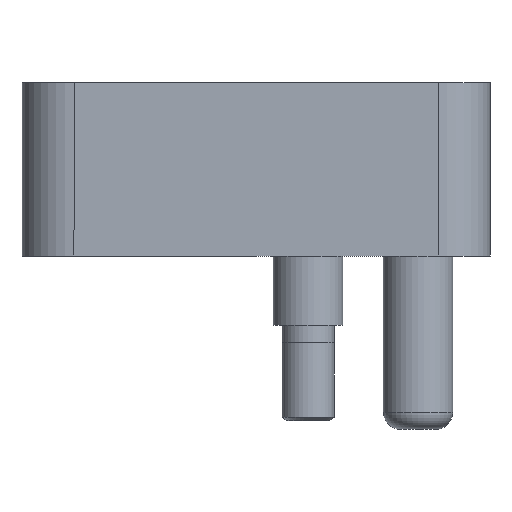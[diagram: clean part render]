
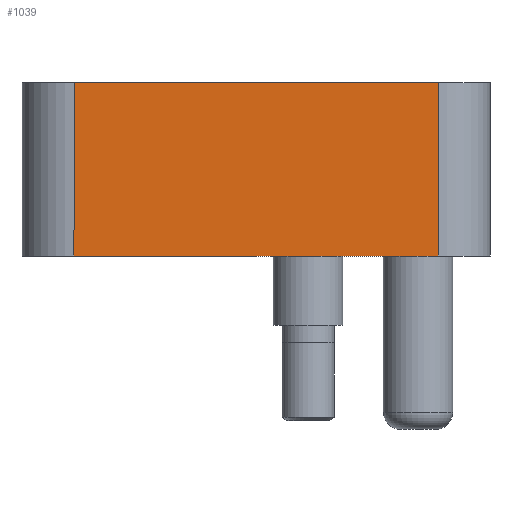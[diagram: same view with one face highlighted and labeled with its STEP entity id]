
A CAD part, front view. The second image highlights one B-rep face of the part: STEP entity #1039.
In plain terms, the highlighted planar face has unit normal (0, -1, 0).
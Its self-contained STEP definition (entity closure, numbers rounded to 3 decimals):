
#88 = CARTESIAN_POINT ( 'NONE',  ( 15., 0., 0. ) ) ;
#123 = EDGE_CURVE ( 'NONE', #125, #581, #594, .T. ) ;
#125 = VERTEX_POINT ( 'NONE', #1142 ) ;
#129 = ORIENTED_EDGE ( 'NONE', *, *, #123, .T. ) ;
#147 = EDGE_CURVE ( 'NONE', #581, #1828, #958, .T. ) ;
#262 = VECTOR ( 'NONE', #1692, 1000. ) ;
#312 = LINE ( 'NONE', #1233, #1095 ) ;
#324 = DIRECTION ( 'NONE',  ( 0., 0., -1. ) ) ;
#355 = ORIENTED_EDGE ( 'NONE', *, *, #147, .T. ) ;
#361 = CARTESIAN_POINT ( 'NONE',  ( -27., 0., 20. ) ) ;
#548 = EDGE_CURVE ( 'NONE', #1182, #125, #312, .T. ) ;
#581 = VERTEX_POINT ( 'NONE', #88 ) ;
#585 = CARTESIAN_POINT ( 'NONE',  ( 15., 0., 20. ) ) ;
#594 = LINE ( 'NONE', #762, #262 ) ;
#647 = EDGE_LOOP ( 'NONE', ( #129, #355, #992, #1124 ) ) ;
#670 = PLANE ( 'NONE',  #1949 ) ;
#726 = DIRECTION ( 'NONE',  ( 0., 0., 1. ) ) ;
#762 = CARTESIAN_POINT ( 'NONE',  ( 0., 0., 0. ) ) ;
#788 = DIRECTION ( 'NONE',  ( 1., 0., 0. ) ) ;
#958 = LINE ( 'NONE', #585, #1797 ) ;
#992 = ORIENTED_EDGE ( 'NONE', *, *, #1311, .F. ) ;
#1009 = VECTOR ( 'NONE', #788, 1000. ) ;
#1039 = ADVANCED_FACE ( 'NONE', ( #1455 ), #670, .F. ) ;
#1095 = VECTOR ( 'NONE', #324, 1000. ) ;
#1124 = ORIENTED_EDGE ( 'NONE', *, *, #548, .T. ) ;
#1142 = CARTESIAN_POINT ( 'NONE',  ( -27., 0., 0. ) ) ;
#1182 = VERTEX_POINT ( 'NONE', #361 ) ;
#1233 = CARTESIAN_POINT ( 'NONE',  ( -27., 0., 20. ) ) ;
#1311 = EDGE_CURVE ( 'NONE', #1182, #1828, #1841, .T. ) ;
#1387 = CARTESIAN_POINT ( 'NONE',  ( 0., 0., 20. ) ) ;
#1455 = FACE_OUTER_BOUND ( 'NONE', #647, .T. ) ;
#1574 = DIRECTION ( 'NONE',  ( -1., 0., 0. ) ) ;
#1600 = DIRECTION ( 'NONE',  ( 0., 1., 0. ) ) ;
#1625 = CARTESIAN_POINT ( 'NONE',  ( 15., 0., 20. ) ) ;
#1692 = DIRECTION ( 'NONE',  ( 1., 0., 0. ) ) ;
#1797 = VECTOR ( 'NONE', #726, 1000. ) ;
#1828 = VERTEX_POINT ( 'NONE', #1625 ) ;
#1841 = LINE ( 'NONE', #1902, #1009 ) ;
#1902 = CARTESIAN_POINT ( 'NONE',  ( 21., 0., 20. ) ) ;
#1949 = AXIS2_PLACEMENT_3D ( 'NONE', #1387, #1600, #1574 ) ;
